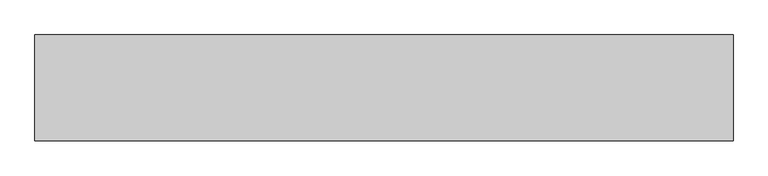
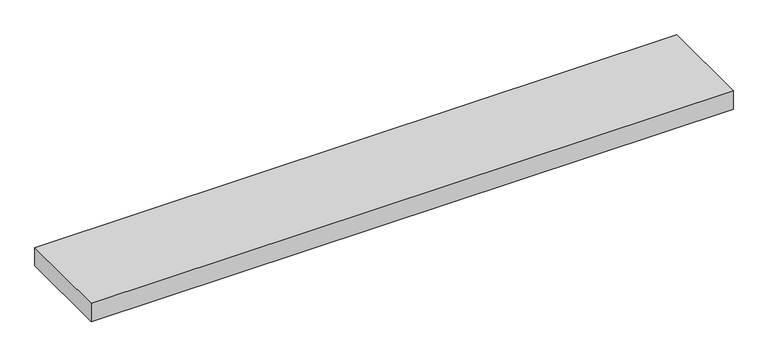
"""IFC4 building model written with IfcOpenShell, lengths in millimetres: furniture geometry, Prateleira : Prateleira 6."""

import ifcopenshell
import ifcopenshell.guid

model = None  # the IFC model being written
_history = None  # IfcOwnerHistory: only IFC2X3 demands one
_inside = {}  # id of a spatial element -> (the spatial element, [elements in it])
_under = {}  # id of a project, library or spatial element -> (it, [spatial elements below it])
_declared = {}  # id of a project -> (the project, [libraries it declares])
_typed = {}  # id of a type object -> (the type object, [elements of that type])
_made_of = {}  # id of a material, layer set ... -> (it, [elements and type objects made of it])


def new_model(schema):
    """Start an empty IFC model of exactly this schema.

    Asked for "IFC4X3", IfcOpenShell would pick the latest addendum, in which some entities
    have other attributes; the version numbers below select the first issue.
    IFC2X3 requires an IfcOwnerHistory on every rooted entity: one is made here for all.
    """
    global model, _history
    if schema == "IFC4X3":
        model = ifcopenshell.file(schema_version=(4, 3, 0, 0))
    else:
        model = ifcopenshell.file(schema=schema)
    _inside.clear()
    _under.clear()
    _declared.clear()
    _typed.clear()
    _made_of.clear()
    _history = None
    if model.schema == "IFC2X3":
        org = make("IfcOrganization", Name="unknown")
        user = make(
            "IfcPersonAndOrganization",
            ThePerson=make("IfcPerson", FamilyName="unknown"),
            TheOrganization=org,
        )
        app = make(
            "IfcApplication",
            ApplicationDeveloper=org,
            Version="unknown",
            ApplicationFullName="unknown",
            ApplicationIdentifier="unknown",
        )
        _history = make(
            "IfcOwnerHistory",
            OwningUser=user,
            OwningApplication=app,
            ChangeAction="ADDED",
            CreationDate=0,
        )
    return model


def make(cls, **values):
    """One entity of the class cls with the attributes given. An attribute that is None is left unset."""
    return model.create_entity(
        cls, **{name: value for name, value in values.items() if value is not None}
    )


def rooted(cls, **values):
    """An entity with a GlobalId (a new one), such as an element, a storey or a relation."""
    return make(cls, GlobalId=ifcopenshell.guid.new(), OwnerHistory=_history, **values)


def si_unit(unit_type, name, prefix=None):
    """IfcSIUnit, for example si_unit("LENGTHUNIT", "METRE", prefix="MILLI")."""
    return make("IfcSIUnit", UnitType=unit_type, Prefix=prefix, Name=name)


def assignment(units):
    """IfcUnitAssignment: the units of a project."""
    return None if units is None else make("IfcUnitAssignment", Units=units)


def point(xyz):
    """IfcCartesianPoint."""
    return None if xyz is None else make("IfcCartesianPoint", Coordinates=xyz)


def direction(xyz):
    """IfcDirection."""
    return None if xyz is None else make("IfcDirection", DirectionRatios=xyz)


def frame(location, z_axis=None, x_axis=None):
    """IfcAxis2Placement3D, a coordinate frame: its origin and axes. An axis left out is left unset."""
    return make(
        "IfcAxis2Placement3D",
        Location=point(location),
        Axis=direction(z_axis),
        RefDirection=direction(x_axis),
    )


def origin():
    """The frame at (0, 0, 0) with its axes left unset."""
    return frame((0.0, 0.0, 0.0))


def place(relative_to, where):
    """IfcLocalPlacement: puts the frame where relative to a parent placement (None: the world)."""
    return make(
        "IfcLocalPlacement", PlacementRelTo=relative_to, RelativePlacement=where
    )


def context(
    kind, dimensions, precision=None, world=None, true_north=None, identifier=None
):
    """IfcGeometricRepresentationContext, for example the 3D "Model" context."""
    return make(
        "IfcGeometricRepresentationContext",
        ContextIdentifier=identifier,
        ContextType=kind,
        CoordinateSpaceDimension=dimensions,
        Precision=precision,
        WorldCoordinateSystem=world,
        TrueNorth=true_north,
    )


def project(units=None, contexts=None):
    """IfcProject with its units and contexts."""
    return rooted(
        "IfcProject",
        Name="project",
        RepresentationContexts=contexts,
        UnitsInContext=assignment(units),
    )


def spatial(cls, under=None, at=None, **own):
    """A site, building, storey or space (cls), placed at a placement, below another one or the project."""
    s = rooted(cls, ObjectPlacement=at, **own)
    if under is not None:
        _under.setdefault(under.id(), (under, []))[1].append(s)
    return s


def polyline(points):
    """IfcPolyline through the points."""
    return make("IfcPolyline", Points=[point(p) for p in points])


def outline(outer, holes=None, kind="AREA"):
    """IfcArbitraryClosedProfileDef: a profile drawn as a closed curve; with holes, ...WithVoids."""
    if holes is None:
        return make("IfcArbitraryClosedProfileDef", ProfileType=kind, OuterCurve=outer)
    return make(
        "IfcArbitraryProfileDefWithVoids",
        ProfileType=kind,
        OuterCurve=outer,
        InnerCurves=holes,
    )


def extrude(swept, where, along, depth):
    """IfcExtrudedAreaSolid: the profile swept, set in the frame where, extruded along a direction by depth."""
    return make(
        "IfcExtrudedAreaSolid",
        SweptArea=swept,
        Position=where,
        ExtrudedDirection=direction(along),
        Depth=depth,
    )


def shape(context_of_items, identifier, shape_type, items):
    """IfcShapeRepresentation: the items that make up one representation, for example the "Body"."""
    return make(
        "IfcShapeRepresentation",
        ContextOfItems=context_of_items,
        RepresentationIdentifier=identifier,
        RepresentationType=shape_type,
        Items=items,
    )


def source(mapping_origin, context_of_items, identifier, shape_type, items):
    """IfcRepresentationMap: a shape defined once, which mapped items show again and again."""
    return make(
        "IfcRepresentationMap",
        MappingOrigin=mapping_origin,
        MappedRepresentation=shape(context_of_items, identifier, shape_type, items),
    )


def transform(
    local_origin,
    x_axis=None,
    y_axis=None,
    z_axis=None,
    scale=None,
    scale2=None,
    scale3=None,
    uniform=True,
):
    """IfcCartesianTransformationOperator3D, or its non-uniform kind. x_axis, y_axis, z_axis: its Axis1, 2, 3."""
    if uniform:
        return make(
            "IfcCartesianTransformationOperator3D",
            Axis1=direction(x_axis),
            Axis2=direction(y_axis),
            LocalOrigin=point(local_origin),
            Scale=scale,
            Axis3=direction(z_axis),
        )
    return make(
        "IfcCartesianTransformationOperator3DnonUniform",
        Axis1=direction(x_axis),
        Axis2=direction(y_axis),
        LocalOrigin=point(local_origin),
        Scale=scale,
        Axis3=direction(z_axis),
        Scale2=scale2,
        Scale3=scale3,
    )


def mapped(mapping_source, mapping_target):
    """IfcMappedItem: shows the shape of a source again, moved by a transform."""
    return make(
        "IfcMappedItem", MappingSource=mapping_source, MappingTarget=mapping_target
    )


def made_of(thing, what):
    """Note that an element or type object is made of a material, layer set ...; save() writes the relation."""
    if what is not None:
        _made_of.setdefault(what.id(), (what, []))[1].append(thing)
    return thing


def element(
    cls,
    number,
    at=None,
    inside=None,
    cuts=None,
    type_object=None,
    material=None,
    context=None,
    identifier="Body",
    shape_type=None,
    held_by="IfcProductDefinitionShape",
    body=None,
    shapes=None,
    **own,
):
    """One element of the class cls, such as IfcWall. Its Tag is "e" and its number.

    at: its placement. inside: the storey or other place that contains it. cuts: it is an
    opening in that element (IfcRelVoidsElement). A single representation is given by context,
    identifier, shape_type and body (its items); several are given by shapes. held_by: the class
    of the entity that holds the representations. save() writes the other relations.
    """
    e = rooted(cls, Tag="e%d" % number, ObjectPlacement=at, **own)
    if body is not None:
        shapes = [shape(context, identifier, shape_type, body)]
    if shapes is not None:
        e.Representation = make(held_by, Representations=shapes)
    if inside is not None:
        _inside.setdefault(inside.id(), (inside, []))[1].append(e)
    if cuts is not None:
        rooted(
            "IfcRelVoidsElement", RelatingBuildingElement=cuts, RelatedOpeningElement=e
        )
    if type_object is not None:
        _typed.setdefault(type_object.id(), (type_object, []))[1].append(e)
    return made_of(e, material)


def aggregate(whole, parts):
    """IfcRelAggregates: a whole, such as a stair, and the parts it consists of."""
    return rooted("IfcRelAggregates", RelatingObject=whole, RelatedObjects=parts)


def save(model, path):
    """Write the relations noted so far, then the file.

    IfcRelAggregates (storeys below a building ...), IfcRelContainedInSpatialStructure (elements
    in a storey), IfcRelDefinesByType, IfcRelAssociatesMaterial and IfcRelDeclares: one each for
    every whole, place, type object, material and project.
    """
    for whole, parts in _under.values():
        aggregate(whole, parts)
    for where, things in _inside.values():
        rooted(
            "IfcRelContainedInSpatialStructure",
            RelatedElements=things,
            RelatingStructure=where,
        )
    for kind, things in _typed.values():
        rooted("IfcRelDefinesByType", RelatedObjects=things, RelatingType=kind)
    for what, things in _made_of.values():
        rooted("IfcRelAssociatesMaterial", RelatedObjects=things, RelatingMaterial=what)
    for by, libraries in _declared.values():
        rooted("IfcRelDeclares", RelatingContext=by, RelatedDefinitions=libraries)
    model.write(path)


def furniture_17abe1a5(model_context):
    return source(origin(), model_context, "Body", "SweptSolid", [
        extrude(outline(polyline([(2099.5377049, 25.4), (2099.5377049, -474.6), (-1200.4622951, -474.6), (-1200.4622951, 25.4), (2099.5377049, 25.4)])), frame((0.0, 0.0, 1150.0), z_axis=(0.0, 0.0, 1.0), x_axis=(1.0, 0.0, 0.0)), (0.0, 0.0, 1.0), 100.0),
    ])


if __name__ == "__main__":
    model = new_model("IFC4")
    model_context = context("Model", 3, world=origin())
    ifc_project = project(units=[si_unit("LENGTHUNIT", "METRE", prefix="MILLI")], contexts=[model_context])
    site = spatial("IfcSite", under=ifc_project)
    building = spatial("IfcBuilding", under=site)
    placement = place(None, origin())
    furniture_shape = furniture_17abe1a5(model_context)
    element("IfcFurniture", 1, ObjectType="Prateleira : Prateleira 6", at=placement, inside=building, context=model_context, shape_type="MappedRepresentation", body=[
        mapped(furniture_shape, transform((0.0, 0.0, 0.0), x_axis=(1.0, 0.0, 0.0), y_axis=(0.0, 1.0, 0.0), z_axis=(0.0, 0.0, 1.0))),
    ])
    save(model, "model.ifc")
